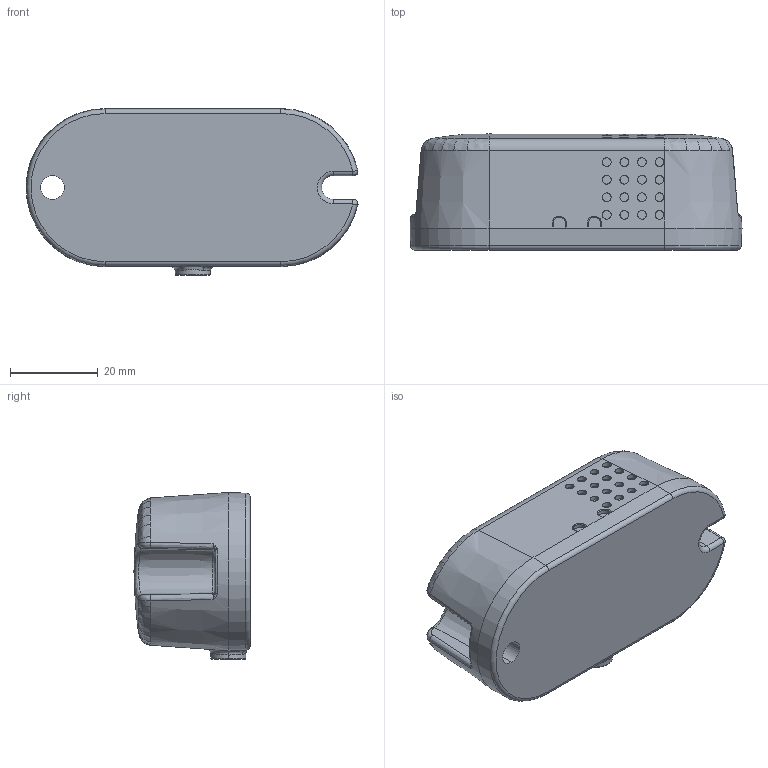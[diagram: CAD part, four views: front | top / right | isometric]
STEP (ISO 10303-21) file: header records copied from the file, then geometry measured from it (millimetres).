
FILE_DESCRIPTION (( 'STEP AP203' ), '1' );
FILE_NAME ('TH23.STEP', '2012-11-02T04:06:36', ( 'Jeremy' ), ( '' ), 'SwSTEP 2.0', 'SolidWorks 2010', '' );
FILE_SCHEMA (( 'CONFIG_CONTROL_DESIGN' ));
Length unit declared in the file: millimetre
Products named in the file (1): TH23
Bounding box: 75.59 x 26.5 x 38 mm (x, y, z)
Volume: 56337.1 mm3; surface area: 10216.2 mm2
Topology: 1 solids, 1 shells, 310 faces, 688 edges, 429 vertices
Faces by surface type: cylinder 164, bspline 64, plane 56, torus 14, cone 10, sphere 2
Entity records: 18359 total; most frequent: CARTESIAN_POINT 12426, ORIENTED_EDGE 1360, DIRECTION 932, EDGE_CURVE 680, VERTEX_POINT 429, AXIS2_PLACEMENT_3D 371, EDGE_LOOP 369, FACE_OUTER_BOUND 310
